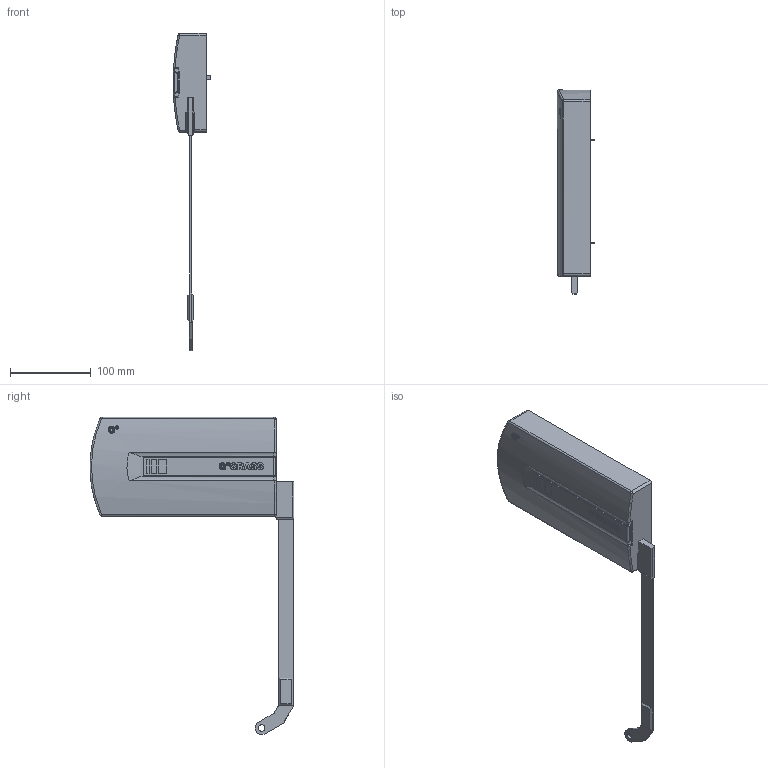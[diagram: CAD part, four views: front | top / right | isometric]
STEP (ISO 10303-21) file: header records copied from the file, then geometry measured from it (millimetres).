
FILE_DESCRIPTION (( 'STEP AP203' ), '1' );
FILE_NAME ('Kinvaro_F-20_Typ4_rechts_D2876017125~a.step', '2012-05-04T06:24:43', ( 'admin' ), ( 'Hewlett-Packard Company' ), 'SwSTEP 2.0', 'SolidWorks 2011', '' );
FILE_SCHEMA (( 'CONFIG_CONTROL_DESIGN' ));
Length unit declared in the file: millimetre
Products named in the file (1): Kinvaro_F-20_Typ4_rechts_D2876017125~a
Bounding box: 46.99 x 253.05 x 393.5 mm (x, y, z)
Volume: 1091242.3 mm3; surface area: 97348.7 mm2
Topology: 1 solids, 1 shells, 417 faces, 1151 edges, 755 vertices
Faces by surface type: cylinder 229, plane 172, torus 8, bspline 4, sphere 4
Entity records: 14118 total; most frequent: CARTESIAN_POINT 3462, ORIENTED_EDGE 2296, DIRECTION 2163, EDGE_CURVE 1148, AXIS2_PLACEMENT_3D 773, VERTEX_POINT 755, LINE 617, VECTOR 617
